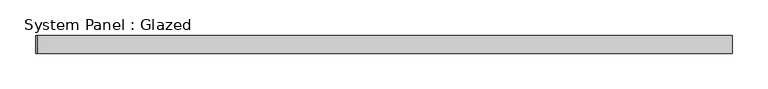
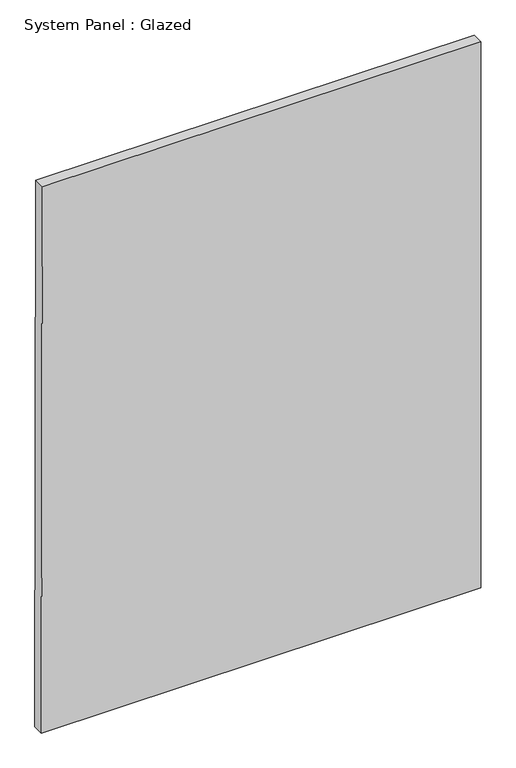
"""IFC4 building model written with IfcOpenShell, lengths in millimetres: plate geometry, System Panel : Glazed."""

from ifc_helpers import new_model, si_unit, frame, origin, place, context, project, spatial, polyline, outline, extrude, source, transform, mapped, element, save


def system_panel_glazed_45e76095(model_context):
    return source(origin(), model_context, "Body", "SweptSolid", [
        extrude(outline(polyline([(0.0, -487.9140507), (0.0, 487.2652846), (1281.4094729, 487.9140507), (1282.3962525, -485.9650584), (0.0, -487.9140507)])), frame((0.0, -49.5, 0.0), z_axis=(0.0, 1.0, 0.0), x_axis=(0.0, 0.0, 1.0)), (0.0, 0.0, 1.0), 25.0),
    ])


if __name__ == "__main__":
    model = new_model("IFC4")
    model_context = context("Model", 3, world=origin())
    ifc_project = project(units=[si_unit("LENGTHUNIT", "METRE", prefix="MILLI")], contexts=[model_context])
    site = spatial("IfcSite", under=ifc_project)
    building = spatial("IfcBuilding", under=site)
    placement = place(None, origin())
    system_panel_glazed_shape = system_panel_glazed_45e76095(model_context)
    element("IfcPlate", 1, ObjectType="System Panel : Glazed", at=placement, inside=building, context=model_context, shape_type="MappedRepresentation", body=[
        mapped(system_panel_glazed_shape, transform((0.0, 0.0, 0.0), x_axis=(1.0, 0.0, 0.0), y_axis=(0.0, 1.0, 0.0), z_axis=(0.0, 0.0, 1.0))),
    ])
    save(model, "model.ifc")
